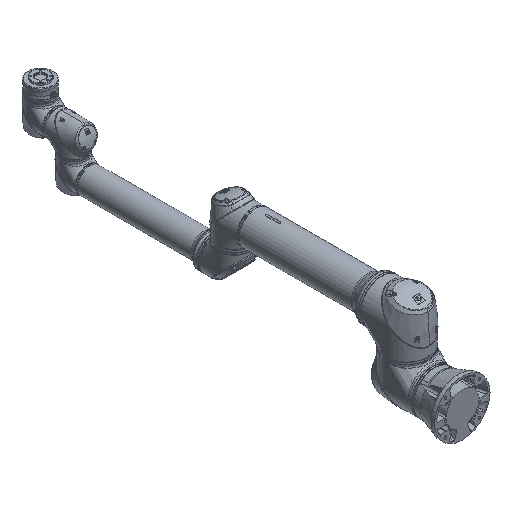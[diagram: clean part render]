
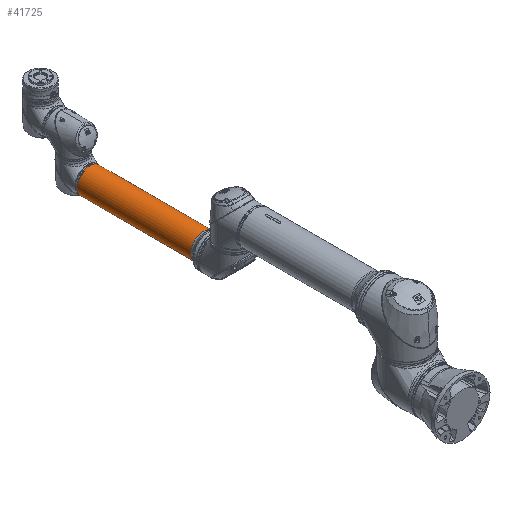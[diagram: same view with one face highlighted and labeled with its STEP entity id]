
A CAD part, isometric view. The second image highlights one B-rep face of the part: STEP entity #41725.
In plain terms, the highlighted cylindrical face has radius 45 mm (diameter 90 mm), a full revolution.
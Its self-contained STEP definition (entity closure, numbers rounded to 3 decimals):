
#1949=CYLINDRICAL_SURFACE('',#45375,45.);
#3758=FACE_OUTER_BOUND('',#6296,.T.);
#6296=EDGE_LOOP('',(#32720,#32721,#32722,#32723));
#10686=LINE('',#171532,#12837);
#12837=VECTOR('',#52225,45.);
#14710=CIRCLE('',#45374,45.);
#14711=CIRCLE('',#45376,45.);
#17581=VERTEX_POINT('',#171527);
#17582=VERTEX_POINT('',#171531);
#22852=EDGE_CURVE('',#17581,#17581,#14710,.T.);
#22853=EDGE_CURVE('',#17581,#17582,#10686,.T.);
#22854=EDGE_CURVE('',#17582,#17582,#14711,.T.);
#32720=ORIENTED_EDGE('',*,*,#22852,.F.);
#32721=ORIENTED_EDGE('',*,*,#22853,.T.);
#32722=ORIENTED_EDGE('',*,*,#22854,.F.);
#32723=ORIENTED_EDGE('',*,*,#22853,.F.);
#41725=ADVANCED_FACE('',(#3758),#1949,.T.);
#45374=AXIS2_PLACEMENT_3D('',#171529,#52221,#52222);
#45375=AXIS2_PLACEMENT_3D('',#171530,#52223,#52224);
#45376=AXIS2_PLACEMENT_3D('',#171533,#52226,#52227);
#52221=DIRECTION('center_axis',(0.,-1.,0.));
#52222=DIRECTION('ref_axis',(-0.673,0.,0.739));
#52223=DIRECTION('center_axis',(0.,-1.,0.));
#52224=DIRECTION('ref_axis',(-0.673,0.,0.739));
#52225=DIRECTION('',(0.,1.,0.));
#52226=DIRECTION('center_axis',(0.,1.,0.));
#52227=DIRECTION('ref_axis',(0.673,0.,-0.739));
#171527=CARTESIAN_POINT('',(30.299,-457.787,-105.071));
#171529=CARTESIAN_POINT('Origin',(0.,-457.787,
-71.8));
#171530=CARTESIAN_POINT('Origin',(0.,-67.307,
-71.8));
#171531=CARTESIAN_POINT('',(30.299,-53.887,-105.071));
#171532=CARTESIAN_POINT('',(30.299,-67.307,-105.071));
#171533=CARTESIAN_POINT('Origin',(0.,-53.887,
-71.8));
